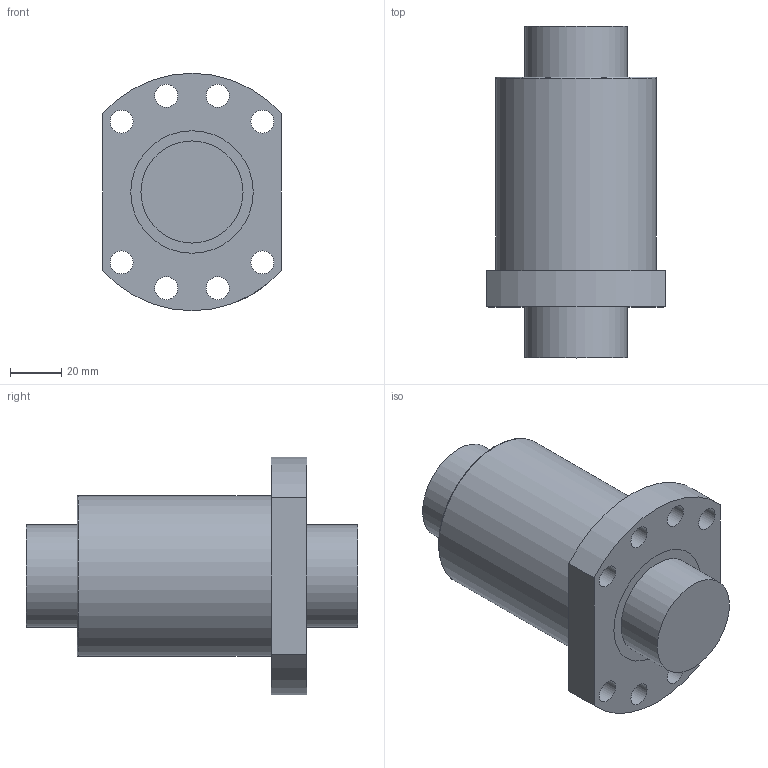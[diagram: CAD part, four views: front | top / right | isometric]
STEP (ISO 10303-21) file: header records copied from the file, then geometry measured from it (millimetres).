
FILE_DESCRIPTION(/* description */ (''),/* implementation_level */ '2;1');
FILE_NAME(/* name */ 'OFU04005-4.stp',/* time_stamp */ '2017-03-13T10:54:10+08:00',/* author */ (''),/* organization */ (''),/* preprocessor_version */ 'ST-DEVELOPER v11',/* originating_system */ 'SIEMENS UGS NX 6.0',/* authorisation */ '');
FILE_SCHEMA (('CONFIG_CONTROL_DESIGN'));
Length unit declared in the file: millimetre
Products named in the file (1): OFU04005-4
Bounding box: 70 x 130 x 93 mm (x, y, z)
Volume: 361094 mm3; surface area: 65692.2 mm2
Topology: 4 solids, 4 shells, 36 faces, 79 edges, 55 vertices
Faces by surface type: cylinder 21, plane 14, torus 1
Full cylindrical faces by diameter (mm): 4 x1, 7 x1, 9 x8, 40 x4, 48 x4, 63 x1
Entity records: 1086 total; most frequent: CARTESIAN_POINT 249, DIRECTION 164, ORIENTED_EDGE 102, EDGE_LOOP 84, FACE_BOUND 79, AXIS2_PLACEMENT_3D 78, EDGE_CURVE 51, VERTEX_POINT 47
